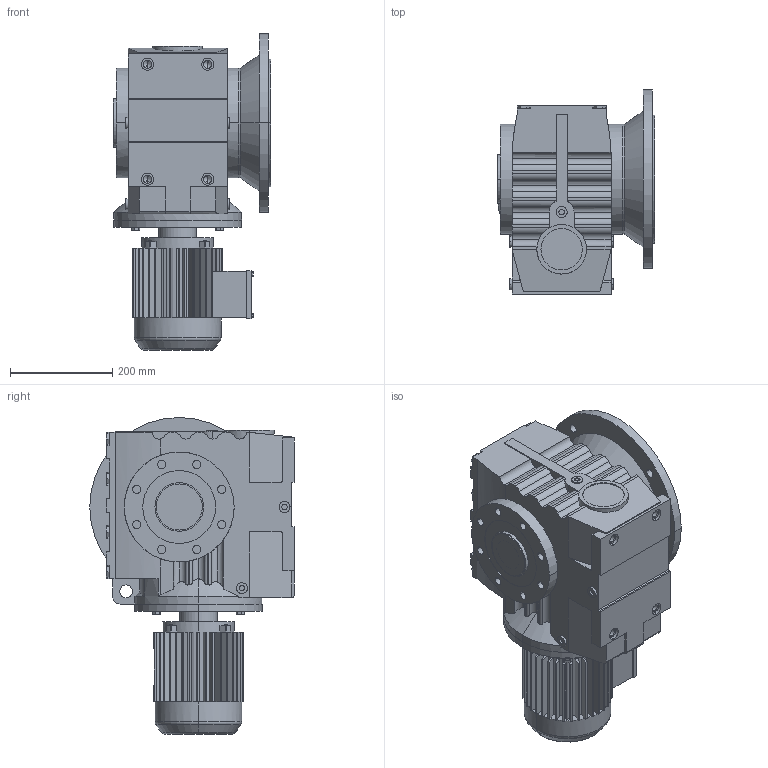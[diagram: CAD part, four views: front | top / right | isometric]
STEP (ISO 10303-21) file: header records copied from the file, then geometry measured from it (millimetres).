
FILE_DESCRIPTION(('Open CASCADE Model'),'2;1');
FILE_NAME('Open CASCADE Shape Model','2021-07-20T11:10:30',('Author'),( 'Open CASCADE'),'Open CASCADE STEP processor 6.3','Open CASCADE 6.3' ,'Unknown');
FILE_SCHEMA(('AUTOMOTIVE_DESIGN_CC2 { 1 2 10303 214 -1 1 5 4 }'));
Length unit declared in the file: millimetre
Products named in the file (5): 1_SAF87-Y80M-60-A; SA47‵97_87.step; 萇儂_250_Y80M.step; す瑩諾陑粣S_87_60.step; 楊擘S_87_350_SAF.step
Assembly tree (4 placements, depth 2):
  1_SAF87-Y80M-60-A
    SA47‵97_87.step
    萇儂_250_Y80M.step
    す瑩諾陑粣S_87_60.step
    楊擘S_87_350_SAF.step
Bounding box: 308.75 x 400 x 620 mm (x, y, z)
Volume: 30694468.1 mm3; surface area: 1472421.4 mm2
Topology: 4 solids, 4 shells, 847 faces, 2202 edges, 1426 vertices
Faces by surface type: plane 531, cylinder 293, cone 19, torus 4
Entity records: 62621 total; most frequent: CARTESIAN_POINT 21342, DIRECTION 6987, ORIENTED_EDGE 4388, PCURVE 4388, DEFINITIONAL_REPRESENTATION 4388, LINE 3532, VECTOR 3532, EDGE_CURVE 2194
